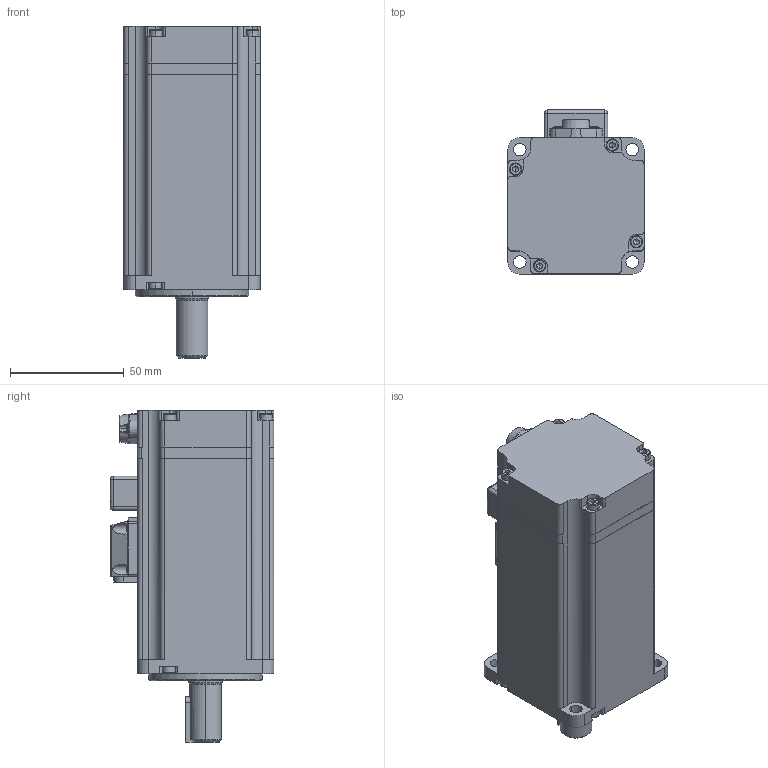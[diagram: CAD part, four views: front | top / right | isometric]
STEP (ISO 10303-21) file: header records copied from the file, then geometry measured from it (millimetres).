
FILE_DESCRIPTION((''),'2;1');
FILE_NAME('R-04E1K3A0_ASM_ASM','2021-06-21T',('lisy41'),(''),'CREO PARAMETRIC BY PTC INC, 2015480','CREO PARAMETRIC BY PTC INC, 2015480','');
FILE_SCHEMA(('CONFIG_CONTROL_DESIGN'));
Length unit declared in the file: millimetre
Products named in the file (1): R-04E1K3A0_ASM_ASM
Bounding box: 60.2 x 72.2 x 146.2 mm (x, y, z)
Volume: 396217.7 mm3; surface area: 43165 mm2
Topology: 1 solids, 38 shells, 949 faces, 2378 edges, 1497 vertices
Faces by surface type: plane 487, cylinder 317, cone 81, torus 40, sphere 16, bspline 8
Entity records: 29072 total; most frequent: CARTESIAN_POINT 6068, DIRECTION 5021, ORIENTED_EDGE 4656, EDGE_CURVE 2328, AXIS2_PLACEMENT_3D 1927, VERTEX_POINT 1497, VECTOR 1167, LINE 1167
